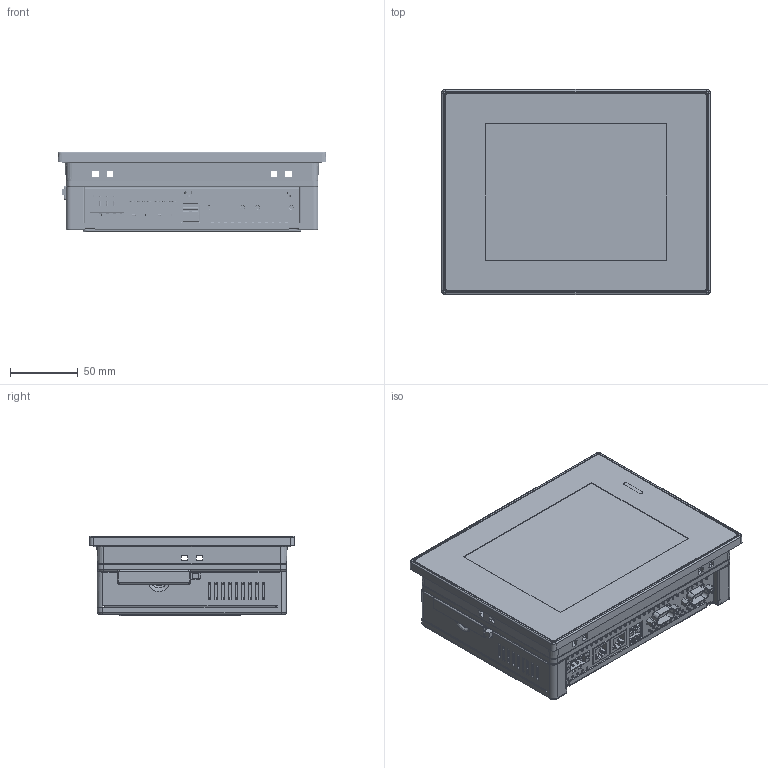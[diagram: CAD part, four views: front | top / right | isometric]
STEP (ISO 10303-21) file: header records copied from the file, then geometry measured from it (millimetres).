
FILE_DESCRIPTION((''),'2;1');
FILE_NAME('CU_TPC-651T','2016-02-09T',('jbuhisan'),(''),'PRO/ENGINEER BY PARAMETRIC TECHNOLOGY CORPORATION, 2015280','PRO/ENGINEER BY PARAMETRIC TECHNOLOGY CORPORATION, 2015280','');
FILE_SCHEMA(('CONFIG_CONTROL_DESIGN'));
Products named in the file (1): CU_TPC-651T
Bounding box: 199 x 152 x 58.9 mm (x, y, z)
Volume: 221203.5 mm3; surface area: 276057.9 mm2
Topology: 7 solids, 7 shells, 4125 faces, 11188 edges, 7129 vertices
Faces by surface type: plane 1920, cylinder 1601, torus 196, bspline 168, cone 118, extrusion 116, sphere 4, revolution 2
Entity records: 152534 total; most frequent: CARTESIAN_POINT 46677, ORIENTED_EDGE 22338, DIRECTION 21623, EDGE_CURVE 11169, AXIS2_PLACEMENT_3D 7333, VERTEX_POINT 7129, VECTOR 6955, LINE 6839
